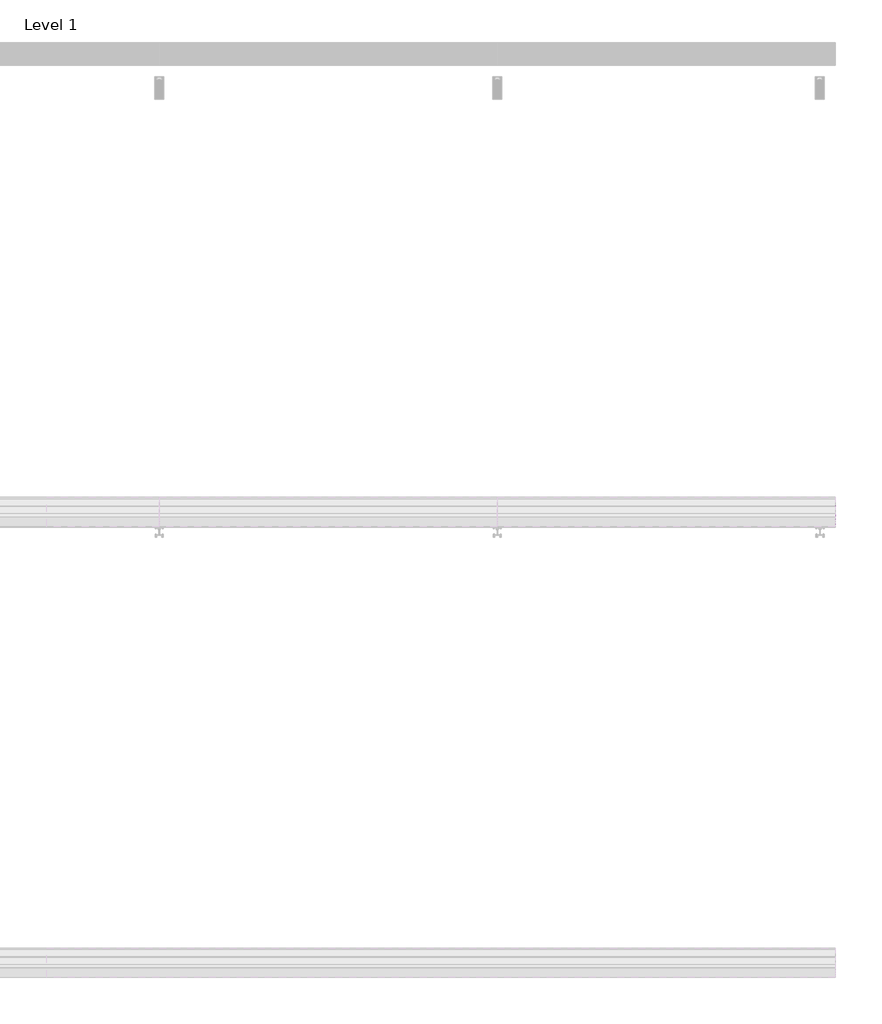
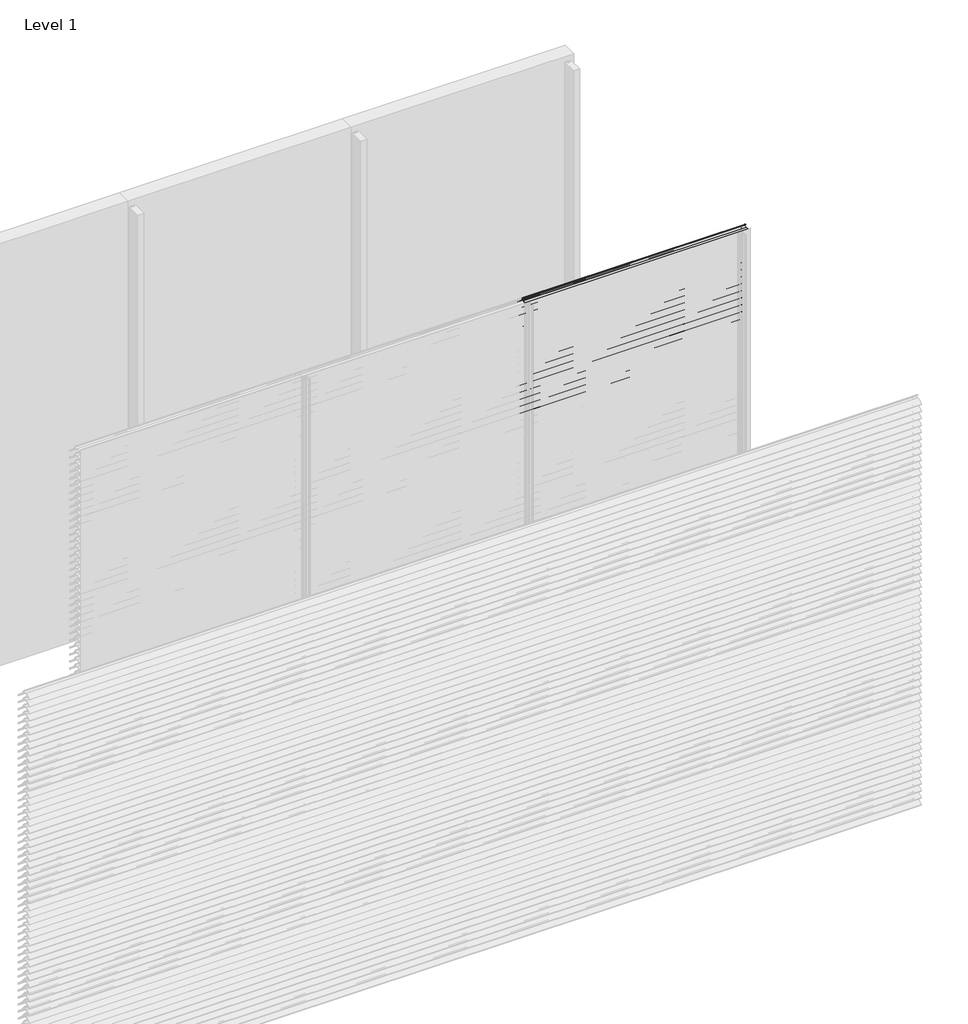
# One storey, part 51 of 173: 17 proxies.
"""IFC4 building model written with IfcOpenShell, lengths in millimetres."""

from ifc_helpers import new_model, si_unit, point, frame, frame_2d, origin, place, context, project, spatial, polyline, circle_curve, trimmed, segment, composite_curve, outline, extrude, element, save

model = new_model("IFC4")

# Units and contexts
model_context = context("Model", 3, world=origin())
ifc_project = project(units=[si_unit("LENGTHUNIT", "METRE", prefix="MILLI")], contexts=[model_context])

# Site, building, storey
site = spatial("IfcSite", under=ifc_project)
building = spatial("IfcBuilding", under=site)
storey = spatial("IfcBuildingStorey", under=building, Name="Level 1", Elevation=0.0)

# Proxies
placement = place(None, origin())
element("IfcBuildingElementProxy", 1, Name="Wall Sweeps", at=placement, inside=storey, context=model_context, shape_type="SweptSolid", body=[
    extrude(outline(composite_curve([segment(polyline([(-41998.0, 2959.1474905), (-41998.0, 2961.6227417)]), True, "CONTINUOUS"), segment(trimmed(circle_curve(frame_2d((-41951.2682172, 2916.2200208)), 65.1557103), [point((-41998.0, 2961.6227417))], [point((-41954.4014323, 2981.3003524))], False, "CARTESIAN"), True, "CONTINUOUS"), segment(polyline([(-41954.4014323, 2981.3003524), (-41934.8315836, 2981.3003524)]), True, "CONTINUOUS"), segment(trimmed(circle_curve(frame_2d((-41732.7329489, 3128.5533172)), 250.0545817), [point((-41934.8315836, 2981.3003524))], [point((-41941.4452143, 2990.8344583))], False, "CARTESIAN"), True, "CONTINUOUS"), segment(trimmed(circle_curve(frame_2d((-41953.2981792, 2985.1737835)), 13.1352966), [point((-41941.4452143, 2990.8344583))], [point((-41953.8171475, 2998.298824))], True, "CARTESIAN"), True, "CONTINUOUS"), segment(polyline([(-41953.8171475, 2998.298824), (-41953.8171475, 3000.0)]), True, "CONTINUOUS"), segment(trimmed(circle_curve(frame_2d((-41953.2981792, 2985.1737835)), 14.8352966), [point((-41953.8171475, 3000.0))], [point((-41939.9637661, 2991.6760487))], False, "CARTESIAN"), True, "CONTINUOUS"), segment(trimmed(circle_curve(frame_2d((-41732.7329489, 3128.5533172)), 248.3545817), [point((-41939.9637661, 2991.6760487))], [point((-41873.8787895, 2924.2059416))], True, "CARTESIAN"), True, "CONTINUOUS"), segment(trimmed(circle_curve(frame_2d((-41883.8147537, 2911.6649442)), 16.0), [point((-41873.8787895, 2924.2059416))], [point((-41867.8648347, 2910.4))], False, "CARTESIAN"), True, "CONTINUOUS"), segment(polyline([(-41867.8648347, 2910.4), (-41869.6712069, 2910.4)]), True, "CONTINUOUS"), segment(trimmed(circle_curve(frame_2d((-41883.8147537, 2911.6649442)), 14.2), [point((-41869.6712069, 2910.4))], [point((-41874.9518628, 2922.7594998))], True, "CARTESIAN"), True, "CONTINUOUS"), segment(trimmed(circle_curve(frame_2d((-41732.7329489, 3128.5533172)), 250.1545817), [point((-41874.9518628, 2922.7594998))], [point((-41933.7064024, 2979.6003524))], False, "CARTESIAN"), True, "CONTINUOUS"), segment(polyline([(-41933.7064024, 2979.6003524), (-41954.3602632, 2979.6003524)]), True, "CONTINUOUS"), segment(trimmed(circle_curve(frame_2d((-41951.2682172, 2916.2200208)), 63.4557103), [point((-41954.3602632, 2979.6003524))], [point((-41998.0, 2959.1474905))], True, "CARTESIAN"), True, "CONTINUOUS")], self_intersect=False)), frame((4500.0, 0.0, 0.0), z_axis=(1.0, 0.0, 0.0), x_axis=(0.0, 1.0, 0.0)), (0.0, 0.0, 1.0), 1500.0),
])
element("IfcBuildingElementProxy", 2, Name="Wall Sweeps", at=placement, inside=storey, context=model_context, shape_type="SweptSolid", body=[
    extrude(outline(composite_curve([segment(polyline([(-41998.0, 2909.1474905), (-41998.0, 2911.6227417)]), True, "CONTINUOUS"), segment(trimmed(circle_curve(frame_2d((-41951.2682172, 2866.2200208)), 65.1557103), [point((-41998.0, 2911.6227417))], [point((-41954.4014323, 2931.3003524))], False, "CARTESIAN"), True, "CONTINUOUS"), segment(polyline([(-41954.4014323, 2931.3003524), (-41934.8315836, 2931.3003524)]), True, "CONTINUOUS"), segment(trimmed(circle_curve(frame_2d((-41732.7329489, 3078.5533172)), 250.0545817), [point((-41934.8315836, 2931.3003524))], [point((-41941.4452143, 2940.8344583))], False, "CARTESIAN"), True, "CONTINUOUS"), segment(trimmed(circle_curve(frame_2d((-41953.2981792, 2935.1737835)), 13.1352966), [point((-41941.4452143, 2940.8344583))], [point((-41953.8171475, 2948.298824))], True, "CARTESIAN"), True, "CONTINUOUS"), segment(polyline([(-41953.8171475, 2948.298824), (-41953.8171475, 2950.0)]), True, "CONTINUOUS"), segment(trimmed(circle_curve(frame_2d((-41953.2981792, 2935.1737835)), 14.8352966), [point((-41953.8171475, 2950.0))], [point((-41939.9637661, 2941.6760487))], False, "CARTESIAN"), True, "CONTINUOUS"), segment(trimmed(circle_curve(frame_2d((-41732.7329489, 3078.5533172)), 248.3545817), [point((-41939.9637661, 2941.6760487))], [point((-41873.8787895, 2874.2059416))], True, "CARTESIAN"), True, "CONTINUOUS"), segment(trimmed(circle_curve(frame_2d((-41883.8147537, 2861.6649442)), 16.0), [point((-41873.8787895, 2874.2059416))], [point((-41867.8648347, 2860.4))], False, "CARTESIAN"), True, "CONTINUOUS"), segment(polyline([(-41867.8648347, 2860.4), (-41869.6712069, 2860.4)]), True, "CONTINUOUS"), segment(trimmed(circle_curve(frame_2d((-41883.8147537, 2861.6649442)), 14.2), [point((-41869.6712069, 2860.4))], [point((-41874.9518628, 2872.7594998))], True, "CARTESIAN"), True, "CONTINUOUS"), segment(trimmed(circle_curve(frame_2d((-41732.7329489, 3078.5533172)), 250.1545817), [point((-41874.9518628, 2872.7594998))], [point((-41933.7064024, 2929.6003524))], False, "CARTESIAN"), True, "CONTINUOUS"), segment(polyline([(-41933.7064024, 2929.6003524), (-41954.3602632, 2929.6003524)]), True, "CONTINUOUS"), segment(trimmed(circle_curve(frame_2d((-41951.2682172, 2866.2200208)), 63.4557103), [point((-41954.3602632, 2929.6003524))], [point((-41998.0, 2909.1474905))], True, "CARTESIAN"), True, "CONTINUOUS")], self_intersect=False)), frame((4500.0, 0.0, 0.0), z_axis=(1.0, 0.0, 0.0), x_axis=(0.0, 1.0, 0.0)), (0.0, 0.0, 1.0), 1500.0),
])
element("IfcBuildingElementProxy", 3, Name="Wall Sweeps", at=placement, inside=storey, context=model_context, shape_type="SweptSolid", body=[
    extrude(outline(composite_curve([segment(polyline([(-41998.0, 2859.1474905), (-41998.0, 2861.6227417)]), True, "CONTINUOUS"), segment(trimmed(circle_curve(frame_2d((-41951.2682172, 2816.2200208)), 65.1557103), [point((-41998.0, 2861.6227417))], [point((-41954.4014323, 2881.3003524))], False, "CARTESIAN"), True, "CONTINUOUS"), segment(polyline([(-41954.4014323, 2881.3003524), (-41934.8315836, 2881.3003524)]), True, "CONTINUOUS"), segment(trimmed(circle_curve(frame_2d((-41732.7329489, 3028.5533172)), 250.0545817), [point((-41934.8315836, 2881.3003524))], [point((-41941.4452143, 2890.8344583))], False, "CARTESIAN"), True, "CONTINUOUS"), segment(trimmed(circle_curve(frame_2d((-41953.2981792, 2885.1737835)), 13.1352966), [point((-41941.4452143, 2890.8344583))], [point((-41953.8171475, 2898.298824))], True, "CARTESIAN"), True, "CONTINUOUS"), segment(polyline([(-41953.8171475, 2898.298824), (-41953.8171475, 2900.0)]), True, "CONTINUOUS"), segment(trimmed(circle_curve(frame_2d((-41953.2981792, 2885.1737835)), 14.8352966), [point((-41953.8171475, 2900.0))], [point((-41939.9637661, 2891.6760487))], False, "CARTESIAN"), True, "CONTINUOUS"), segment(trimmed(circle_curve(frame_2d((-41732.7329489, 3028.5533172)), 248.3545817), [point((-41939.9637661, 2891.6760487))], [point((-41873.8787895, 2824.2059416))], True, "CARTESIAN"), True, "CONTINUOUS"), segment(trimmed(circle_curve(frame_2d((-41883.8147537, 2811.6649442)), 16.0), [point((-41873.8787895, 2824.2059416))], [point((-41867.8648347, 2810.4))], False, "CARTESIAN"), True, "CONTINUOUS"), segment(polyline([(-41867.8648347, 2810.4), (-41869.6712069, 2810.4)]), True, "CONTINUOUS"), segment(trimmed(circle_curve(frame_2d((-41883.8147537, 2811.6649442)), 14.2), [point((-41869.6712069, 2810.4))], [point((-41874.9518628, 2822.7594998))], True, "CARTESIAN"), True, "CONTINUOUS"), segment(trimmed(circle_curve(frame_2d((-41732.7329489, 3028.5533172)), 250.1545817), [point((-41874.9518628, 2822.7594998))], [point((-41933.7064024, 2879.6003524))], False, "CARTESIAN"), True, "CONTINUOUS"), segment(polyline([(-41933.7064024, 2879.6003524), (-41954.3602632, 2879.6003524)]), True, "CONTINUOUS"), segment(trimmed(circle_curve(frame_2d((-41951.2682172, 2816.2200208)), 63.4557103), [point((-41954.3602632, 2879.6003524))], [point((-41998.0, 2859.1474905))], True, "CARTESIAN"), True, "CONTINUOUS")], self_intersect=False)), frame((4500.0, 0.0, 0.0), z_axis=(1.0, 0.0, 0.0), x_axis=(0.0, 1.0, 0.0)), (0.0, 0.0, 1.0), 1500.0),
])
element("IfcBuildingElementProxy", 4, Name="Wall Sweeps", at=placement, inside=storey, context=model_context, shape_type="SweptSolid", body=[
    extrude(outline(composite_curve([segment(polyline([(-41998.0, 2809.1474905), (-41998.0, 2811.6227417)]), True, "CONTINUOUS"), segment(trimmed(circle_curve(frame_2d((-41951.2682172, 2766.2200208)), 65.1557103), [point((-41998.0, 2811.6227417))], [point((-41954.4014323, 2831.3003524))], False, "CARTESIAN"), True, "CONTINUOUS"), segment(polyline([(-41954.4014323, 2831.3003524), (-41934.8315836, 2831.3003524)]), True, "CONTINUOUS"), segment(trimmed(circle_curve(frame_2d((-41732.7329489, 2978.5533172)), 250.0545817), [point((-41934.8315836, 2831.3003524))], [point((-41941.4452143, 2840.8344583))], False, "CARTESIAN"), True, "CONTINUOUS"), segment(trimmed(circle_curve(frame_2d((-41953.2981792, 2835.1737835)), 13.1352966), [point((-41941.4452143, 2840.8344583))], [point((-41953.8171475, 2848.298824))], True, "CARTESIAN"), True, "CONTINUOUS"), segment(polyline([(-41953.8171475, 2848.298824), (-41953.8171475, 2850.0)]), True, "CONTINUOUS"), segment(trimmed(circle_curve(frame_2d((-41953.2981792, 2835.1737835)), 14.8352966), [point((-41953.8171475, 2850.0))], [point((-41939.9637661, 2841.6760487))], False, "CARTESIAN"), True, "CONTINUOUS"), segment(trimmed(circle_curve(frame_2d((-41732.7329489, 2978.5533172)), 248.3545817), [point((-41939.9637661, 2841.6760487))], [point((-41873.8787895, 2774.2059416))], True, "CARTESIAN"), True, "CONTINUOUS"), segment(trimmed(circle_curve(frame_2d((-41883.8147537, 2761.6649442)), 16.0), [point((-41873.8787895, 2774.2059416))], [point((-41867.8648347, 2760.4))], False, "CARTESIAN"), True, "CONTINUOUS"), segment(polyline([(-41867.8648347, 2760.4), (-41869.6712069, 2760.4)]), True, "CONTINUOUS"), segment(trimmed(circle_curve(frame_2d((-41883.8147537, 2761.6649442)), 14.2), [point((-41869.6712069, 2760.4))], [point((-41874.9518628, 2772.7594998))], True, "CARTESIAN"), True, "CONTINUOUS"), segment(trimmed(circle_curve(frame_2d((-41732.7329489, 2978.5533172)), 250.1545817), [point((-41874.9518628, 2772.7594998))], [point((-41933.7064024, 2829.6003524))], False, "CARTESIAN"), True, "CONTINUOUS"), segment(polyline([(-41933.7064024, 2829.6003524), (-41954.3602632, 2829.6003524)]), True, "CONTINUOUS"), segment(trimmed(circle_curve(frame_2d((-41951.2682172, 2766.2200208)), 63.4557103), [point((-41954.3602632, 2829.6003524))], [point((-41998.0, 2809.1474905))], True, "CARTESIAN"), True, "CONTINUOUS")], self_intersect=False)), frame((4500.0, 0.0, 0.0), z_axis=(1.0, 0.0, 0.0), x_axis=(0.0, 1.0, 0.0)), (0.0, 0.0, 1.0), 1500.0),
])
element("IfcBuildingElementProxy", 5, Name="Wall Sweeps", at=placement, inside=storey, context=model_context, shape_type="SweptSolid", body=[
    extrude(outline(composite_curve([segment(polyline([(-41998.0, 2759.1474905), (-41998.0, 2761.6227417)]), True, "CONTINUOUS"), segment(trimmed(circle_curve(frame_2d((-41951.2682172, 2716.2200208)), 65.1557103), [point((-41998.0, 2761.6227417))], [point((-41954.4014323, 2781.3003524))], False, "CARTESIAN"), True, "CONTINUOUS"), segment(polyline([(-41954.4014323, 2781.3003524), (-41934.8315836, 2781.3003524)]), True, "CONTINUOUS"), segment(trimmed(circle_curve(frame_2d((-41732.7329489, 2928.5533172)), 250.0545817), [point((-41934.8315836, 2781.3003524))], [point((-41941.4452143, 2790.8344583))], False, "CARTESIAN"), True, "CONTINUOUS"), segment(trimmed(circle_curve(frame_2d((-41953.2981792, 2785.1737835)), 13.1352966), [point((-41941.4452143, 2790.8344583))], [point((-41953.8171475, 2798.298824))], True, "CARTESIAN"), True, "CONTINUOUS"), segment(polyline([(-41953.8171475, 2798.298824), (-41953.8171475, 2800.0)]), True, "CONTINUOUS"), segment(trimmed(circle_curve(frame_2d((-41953.2981792, 2785.1737835)), 14.8352966), [point((-41953.8171475, 2800.0))], [point((-41939.9637661, 2791.6760487))], False, "CARTESIAN"), True, "CONTINUOUS"), segment(trimmed(circle_curve(frame_2d((-41732.7329489, 2928.5533172)), 248.3545817), [point((-41939.9637661, 2791.6760487))], [point((-41873.8787895, 2724.2059416))], True, "CARTESIAN"), True, "CONTINUOUS"), segment(trimmed(circle_curve(frame_2d((-41883.8147537, 2711.6649442)), 16.0), [point((-41873.8787895, 2724.2059416))], [point((-41867.8648347, 2710.4))], False, "CARTESIAN"), True, "CONTINUOUS"), segment(polyline([(-41867.8648347, 2710.4), (-41869.6712069, 2710.4)]), True, "CONTINUOUS"), segment(trimmed(circle_curve(frame_2d((-41883.8147537, 2711.6649442)), 14.2), [point((-41869.6712069, 2710.4))], [point((-41874.9518628, 2722.7594998))], True, "CARTESIAN"), True, "CONTINUOUS"), segment(trimmed(circle_curve(frame_2d((-41732.7329489, 2928.5533172)), 250.1545817), [point((-41874.9518628, 2722.7594998))], [point((-41933.7064024, 2779.6003524))], False, "CARTESIAN"), True, "CONTINUOUS"), segment(polyline([(-41933.7064024, 2779.6003524), (-41954.3602632, 2779.6003524)]), True, "CONTINUOUS"), segment(trimmed(circle_curve(frame_2d((-41951.2682172, 2716.2200208)), 63.4557103), [point((-41954.3602632, 2779.6003524))], [point((-41998.0, 2759.1474905))], True, "CARTESIAN"), True, "CONTINUOUS")], self_intersect=False)), frame((4500.0, 0.0, 0.0), z_axis=(1.0, 0.0, 0.0), x_axis=(0.0, 1.0, 0.0)), (0.0, 0.0, 1.0), 1500.0),
])
element("IfcBuildingElementProxy", 6, Name="Wall Sweeps", at=placement, inside=storey, context=model_context, shape_type="SweptSolid", body=[
    extrude(outline(composite_curve([segment(polyline([(-41998.0, 2709.1474905), (-41998.0, 2711.6227417)]), True, "CONTINUOUS"), segment(trimmed(circle_curve(frame_2d((-41951.2682172, 2666.2200208)), 65.1557103), [point((-41998.0, 2711.6227417))], [point((-41954.4014323, 2731.3003524))], False, "CARTESIAN"), True, "CONTINUOUS"), segment(polyline([(-41954.4014323, 2731.3003524), (-41934.8315836, 2731.3003524)]), True, "CONTINUOUS"), segment(trimmed(circle_curve(frame_2d((-41732.7329489, 2878.5533172)), 250.0545817), [point((-41934.8315836, 2731.3003524))], [point((-41941.4452143, 2740.8344583))], False, "CARTESIAN"), True, "CONTINUOUS"), segment(trimmed(circle_curve(frame_2d((-41953.2981792, 2735.1737835)), 13.1352966), [point((-41941.4452143, 2740.8344583))], [point((-41953.8171475, 2748.298824))], True, "CARTESIAN"), True, "CONTINUOUS"), segment(polyline([(-41953.8171475, 2748.298824), (-41953.8171475, 2750.0)]), True, "CONTINUOUS"), segment(trimmed(circle_curve(frame_2d((-41953.2981792, 2735.1737835)), 14.8352966), [point((-41953.8171475, 2750.0))], [point((-41939.9637661, 2741.6760487))], False, "CARTESIAN"), True, "CONTINUOUS"), segment(trimmed(circle_curve(frame_2d((-41732.7329489, 2878.5533172)), 248.3545817), [point((-41939.9637661, 2741.6760487))], [point((-41873.8787895, 2674.2059416))], True, "CARTESIAN"), True, "CONTINUOUS"), segment(trimmed(circle_curve(frame_2d((-41883.8147537, 2661.6649442)), 16.0), [point((-41873.8787895, 2674.2059416))], [point((-41867.8648347, 2660.4))], False, "CARTESIAN"), True, "CONTINUOUS"), segment(polyline([(-41867.8648347, 2660.4), (-41869.6712069, 2660.4)]), True, "CONTINUOUS"), segment(trimmed(circle_curve(frame_2d((-41883.8147537, 2661.6649442)), 14.2), [point((-41869.6712069, 2660.4))], [point((-41874.9518628, 2672.7594998))], True, "CARTESIAN"), True, "CONTINUOUS"), segment(trimmed(circle_curve(frame_2d((-41732.7329489, 2878.5533172)), 250.1545817), [point((-41874.9518628, 2672.7594998))], [point((-41933.7064024, 2729.6003524))], False, "CARTESIAN"), True, "CONTINUOUS"), segment(polyline([(-41933.7064024, 2729.6003524), (-41954.3602632, 2729.6003524)]), True, "CONTINUOUS"), segment(trimmed(circle_curve(frame_2d((-41951.2682172, 2666.2200208)), 63.4557103), [point((-41954.3602632, 2729.6003524))], [point((-41998.0, 2709.1474905))], True, "CARTESIAN"), True, "CONTINUOUS")], self_intersect=False)), frame((4500.0, 0.0, 0.0), z_axis=(1.0, 0.0, 0.0), x_axis=(0.0, 1.0, 0.0)), (0.0, 0.0, 1.0), 1500.0),
])
element("IfcBuildingElementProxy", 7, Name="Wall Sweeps", at=placement, inside=storey, context=model_context, shape_type="SweptSolid", body=[
    extrude(outline(composite_curve([segment(polyline([(-41998.0, 2659.1474905), (-41998.0, 2661.6227417)]), True, "CONTINUOUS"), segment(trimmed(circle_curve(frame_2d((-41951.2682172, 2616.2200208)), 65.1557103), [point((-41998.0, 2661.6227417))], [point((-41954.4014323, 2681.3003524))], False, "CARTESIAN"), True, "CONTINUOUS"), segment(polyline([(-41954.4014323, 2681.3003524), (-41934.8315836, 2681.3003524)]), True, "CONTINUOUS"), segment(trimmed(circle_curve(frame_2d((-41732.7329489, 2828.5533172)), 250.0545817), [point((-41934.8315836, 2681.3003524))], [point((-41941.4452143, 2690.8344583))], False, "CARTESIAN"), True, "CONTINUOUS"), segment(trimmed(circle_curve(frame_2d((-41953.2981792, 2685.1737835)), 13.1352966), [point((-41941.4452143, 2690.8344583))], [point((-41953.8171475, 2698.298824))], True, "CARTESIAN"), True, "CONTINUOUS"), segment(polyline([(-41953.8171475, 2698.298824), (-41953.8171475, 2700.0)]), True, "CONTINUOUS"), segment(trimmed(circle_curve(frame_2d((-41953.2981792, 2685.1737835)), 14.8352966), [point((-41953.8171475, 2700.0))], [point((-41939.9637661, 2691.6760487))], False, "CARTESIAN"), True, "CONTINUOUS"), segment(trimmed(circle_curve(frame_2d((-41732.7329489, 2828.5533172)), 248.3545817), [point((-41939.9637661, 2691.6760487))], [point((-41873.8787895, 2624.2059416))], True, "CARTESIAN"), True, "CONTINUOUS"), segment(trimmed(circle_curve(frame_2d((-41883.8147537, 2611.6649442)), 16.0), [point((-41873.8787895, 2624.2059416))], [point((-41867.8648347, 2610.4))], False, "CARTESIAN"), True, "CONTINUOUS"), segment(polyline([(-41867.8648347, 2610.4), (-41869.6712069, 2610.4)]), True, "CONTINUOUS"), segment(trimmed(circle_curve(frame_2d((-41883.8147537, 2611.6649442)), 14.2), [point((-41869.6712069, 2610.4))], [point((-41874.9518628, 2622.7594998))], True, "CARTESIAN"), True, "CONTINUOUS"), segment(trimmed(circle_curve(frame_2d((-41732.7329489, 2828.5533172)), 250.1545817), [point((-41874.9518628, 2622.7594998))], [point((-41933.7064024, 2679.6003524))], False, "CARTESIAN"), True, "CONTINUOUS"), segment(polyline([(-41933.7064024, 2679.6003524), (-41954.3602632, 2679.6003524)]), True, "CONTINUOUS"), segment(trimmed(circle_curve(frame_2d((-41951.2682172, 2616.2200208)), 63.4557103), [point((-41954.3602632, 2679.6003524))], [point((-41998.0, 2659.1474905))], True, "CARTESIAN"), True, "CONTINUOUS")], self_intersect=False)), frame((4500.0, 0.0, 0.0), z_axis=(1.0, 0.0, 0.0), x_axis=(0.0, 1.0, 0.0)), (0.0, 0.0, 1.0), 1500.0),
])
element("IfcBuildingElementProxy", 8, Name="Wall Sweeps", at=placement, inside=storey, context=model_context, shape_type="SweptSolid", body=[
    extrude(outline(composite_curve([segment(polyline([(-41998.0, 2609.1474905), (-41998.0, 2611.6227417)]), True, "CONTINUOUS"), segment(trimmed(circle_curve(frame_2d((-41951.2682172, 2566.2200208)), 65.1557103), [point((-41998.0, 2611.6227417))], [point((-41954.4014323, 2631.3003524))], False, "CARTESIAN"), True, "CONTINUOUS"), segment(polyline([(-41954.4014323, 2631.3003524), (-41934.8315836, 2631.3003524)]), True, "CONTINUOUS"), segment(trimmed(circle_curve(frame_2d((-41732.7329489, 2778.5533172)), 250.0545817), [point((-41934.8315836, 2631.3003524))], [point((-41941.4452143, 2640.8344583))], False, "CARTESIAN"), True, "CONTINUOUS"), segment(trimmed(circle_curve(frame_2d((-41953.2981792, 2635.1737835)), 13.1352966), [point((-41941.4452143, 2640.8344583))], [point((-41953.8171475, 2648.298824))], True, "CARTESIAN"), True, "CONTINUOUS"), segment(polyline([(-41953.8171475, 2648.298824), (-41953.8171475, 2650.0)]), True, "CONTINUOUS"), segment(trimmed(circle_curve(frame_2d((-41953.2981792, 2635.1737835)), 14.8352966), [point((-41953.8171475, 2650.0))], [point((-41939.9637661, 2641.6760487))], False, "CARTESIAN"), True, "CONTINUOUS"), segment(trimmed(circle_curve(frame_2d((-41732.7329489, 2778.5533172)), 248.3545817), [point((-41939.9637661, 2641.6760487))], [point((-41873.8787895, 2574.2059416))], True, "CARTESIAN"), True, "CONTINUOUS"), segment(trimmed(circle_curve(frame_2d((-41883.8147537, 2561.6649442)), 16.0), [point((-41873.8787895, 2574.2059416))], [point((-41867.8648347, 2560.4))], False, "CARTESIAN"), True, "CONTINUOUS"), segment(polyline([(-41867.8648347, 2560.4), (-41869.6712069, 2560.4)]), True, "CONTINUOUS"), segment(trimmed(circle_curve(frame_2d((-41883.8147537, 2561.6649442)), 14.2), [point((-41869.6712069, 2560.4))], [point((-41874.9518628, 2572.7594998))], True, "CARTESIAN"), True, "CONTINUOUS"), segment(trimmed(circle_curve(frame_2d((-41732.7329489, 2778.5533172)), 250.1545817), [point((-41874.9518628, 2572.7594998))], [point((-41933.7064024, 2629.6003524))], False, "CARTESIAN"), True, "CONTINUOUS"), segment(polyline([(-41933.7064024, 2629.6003524), (-41954.3602632, 2629.6003524)]), True, "CONTINUOUS"), segment(trimmed(circle_curve(frame_2d((-41951.2682172, 2566.2200208)), 63.4557103), [point((-41954.3602632, 2629.6003524))], [point((-41998.0, 2609.1474905))], True, "CARTESIAN"), True, "CONTINUOUS")], self_intersect=False)), frame((4500.0, 0.0, 0.0), z_axis=(1.0, 0.0, 0.0), x_axis=(0.0, 1.0, 0.0)), (0.0, 0.0, 1.0), 1500.0),
])
element("IfcBuildingElementProxy", 9, Name="Wall Sweeps", at=placement, inside=storey, context=model_context, shape_type="SweptSolid", body=[
    extrude(outline(composite_curve([segment(polyline([(-41998.0, 2559.1474905), (-41998.0, 2561.6227417)]), True, "CONTINUOUS"), segment(trimmed(circle_curve(frame_2d((-41951.2682172, 2516.2200208)), 65.1557103), [point((-41998.0, 2561.6227417))], [point((-41954.4014323, 2581.3003524))], False, "CARTESIAN"), True, "CONTINUOUS"), segment(polyline([(-41954.4014323, 2581.3003524), (-41934.8315836, 2581.3003524)]), True, "CONTINUOUS"), segment(trimmed(circle_curve(frame_2d((-41732.7329489, 2728.5533172)), 250.0545817), [point((-41934.8315836, 2581.3003524))], [point((-41941.4452143, 2590.8344583))], False, "CARTESIAN"), True, "CONTINUOUS"), segment(trimmed(circle_curve(frame_2d((-41953.2981792, 2585.1737835)), 13.1352966), [point((-41941.4452143, 2590.8344583))], [point((-41953.8171475, 2598.298824))], True, "CARTESIAN"), True, "CONTINUOUS"), segment(polyline([(-41953.8171475, 2598.298824), (-41953.8171475, 2600.0)]), True, "CONTINUOUS"), segment(trimmed(circle_curve(frame_2d((-41953.2981792, 2585.1737835)), 14.8352966), [point((-41953.8171475, 2600.0))], [point((-41939.9637661, 2591.6760487))], False, "CARTESIAN"), True, "CONTINUOUS"), segment(trimmed(circle_curve(frame_2d((-41732.7329489, 2728.5533172)), 248.3545817), [point((-41939.9637661, 2591.6760487))], [point((-41873.8787895, 2524.2059416))], True, "CARTESIAN"), True, "CONTINUOUS"), segment(trimmed(circle_curve(frame_2d((-41883.8147537, 2511.6649442)), 16.0), [point((-41873.8787895, 2524.2059416))], [point((-41867.8648347, 2510.4))], False, "CARTESIAN"), True, "CONTINUOUS"), segment(polyline([(-41867.8648347, 2510.4), (-41869.6712069, 2510.4)]), True, "CONTINUOUS"), segment(trimmed(circle_curve(frame_2d((-41883.8147537, 2511.6649442)), 14.2), [point((-41869.6712069, 2510.4))], [point((-41874.9518628, 2522.7594998))], True, "CARTESIAN"), True, "CONTINUOUS"), segment(trimmed(circle_curve(frame_2d((-41732.7329489, 2728.5533172)), 250.1545817), [point((-41874.9518628, 2522.7594998))], [point((-41933.7064024, 2579.6003524))], False, "CARTESIAN"), True, "CONTINUOUS"), segment(polyline([(-41933.7064024, 2579.6003524), (-41954.3602632, 2579.6003524)]), True, "CONTINUOUS"), segment(trimmed(circle_curve(frame_2d((-41951.2682172, 2516.2200208)), 63.4557103), [point((-41954.3602632, 2579.6003524))], [point((-41998.0, 2559.1474905))], True, "CARTESIAN"), True, "CONTINUOUS")], self_intersect=False)), frame((4500.0, 0.0, 0.0), z_axis=(1.0, 0.0, 0.0), x_axis=(0.0, 1.0, 0.0)), (0.0, 0.0, 1.0), 1500.0),
])
element("IfcBuildingElementProxy", 10, Name="Wall Sweeps", at=placement, inside=storey, context=model_context, shape_type="SweptSolid", body=[
    extrude(outline(composite_curve([segment(polyline([(-41998.0, 2509.1474905), (-41998.0, 2511.6227417)]), True, "CONTINUOUS"), segment(trimmed(circle_curve(frame_2d((-41951.2682172, 2466.2200208)), 65.1557103), [point((-41998.0, 2511.6227417))], [point((-41954.4014323, 2531.3003524))], False, "CARTESIAN"), True, "CONTINUOUS"), segment(polyline([(-41954.4014323, 2531.3003524), (-41934.8315836, 2531.3003524)]), True, "CONTINUOUS"), segment(trimmed(circle_curve(frame_2d((-41732.7329489, 2678.5533172)), 250.0545817), [point((-41934.8315836, 2531.3003524))], [point((-41941.4452143, 2540.8344583))], False, "CARTESIAN"), True, "CONTINUOUS"), segment(trimmed(circle_curve(frame_2d((-41953.2981792, 2535.1737835)), 13.1352966), [point((-41941.4452143, 2540.8344583))], [point((-41953.8171475, 2548.298824))], True, "CARTESIAN"), True, "CONTINUOUS"), segment(polyline([(-41953.8171475, 2548.298824), (-41953.8171475, 2550.0)]), True, "CONTINUOUS"), segment(trimmed(circle_curve(frame_2d((-41953.2981792, 2535.1737835)), 14.8352966), [point((-41953.8171475, 2550.0))], [point((-41939.9637661, 2541.6760487))], False, "CARTESIAN"), True, "CONTINUOUS"), segment(trimmed(circle_curve(frame_2d((-41732.7329489, 2678.5533172)), 248.3545817), [point((-41939.9637661, 2541.6760487))], [point((-41873.8787895, 2474.2059416))], True, "CARTESIAN"), True, "CONTINUOUS"), segment(trimmed(circle_curve(frame_2d((-41883.8147537, 2461.6649442)), 16.0), [point((-41873.8787895, 2474.2059416))], [point((-41867.8648347, 2460.4))], False, "CARTESIAN"), True, "CONTINUOUS"), segment(polyline([(-41867.8648347, 2460.4), (-41869.6712069, 2460.4)]), True, "CONTINUOUS"), segment(trimmed(circle_curve(frame_2d((-41883.8147537, 2461.6649442)), 14.2), [point((-41869.6712069, 2460.4))], [point((-41874.9518628, 2472.7594998))], True, "CARTESIAN"), True, "CONTINUOUS"), segment(trimmed(circle_curve(frame_2d((-41732.7329489, 2678.5533172)), 250.1545817), [point((-41874.9518628, 2472.7594998))], [point((-41933.7064024, 2529.6003524))], False, "CARTESIAN"), True, "CONTINUOUS"), segment(polyline([(-41933.7064024, 2529.6003524), (-41954.3602632, 2529.6003524)]), True, "CONTINUOUS"), segment(trimmed(circle_curve(frame_2d((-41951.2682172, 2466.2200208)), 63.4557103), [point((-41954.3602632, 2529.6003524))], [point((-41998.0, 2509.1474905))], True, "CARTESIAN"), True, "CONTINUOUS")], self_intersect=False)), frame((4500.0, 0.0, 0.0), z_axis=(1.0, 0.0, 0.0), x_axis=(0.0, 1.0, 0.0)), (0.0, 0.0, 1.0), 1500.0),
])
element("IfcBuildingElementProxy", 11, Name="Wall Sweeps", at=placement, inside=storey, context=model_context, shape_type="SweptSolid", body=[
    extrude(outline(composite_curve([segment(polyline([(-41998.0, 2459.1474905), (-41998.0, 2461.6227417)]), True, "CONTINUOUS"), segment(trimmed(circle_curve(frame_2d((-41951.2682172, 2416.2200208)), 65.1557103), [point((-41998.0, 2461.6227417))], [point((-41954.4014323, 2481.3003524))], False, "CARTESIAN"), True, "CONTINUOUS"), segment(polyline([(-41954.4014323, 2481.3003524), (-41934.8315836, 2481.3003524)]), True, "CONTINUOUS"), segment(trimmed(circle_curve(frame_2d((-41732.7329489, 2628.5533172)), 250.0545817), [point((-41934.8315836, 2481.3003524))], [point((-41941.4452143, 2490.8344583))], False, "CARTESIAN"), True, "CONTINUOUS"), segment(trimmed(circle_curve(frame_2d((-41953.2981792, 2485.1737835)), 13.1352966), [point((-41941.4452143, 2490.8344583))], [point((-41953.8171475, 2498.298824))], True, "CARTESIAN"), True, "CONTINUOUS"), segment(polyline([(-41953.8171475, 2498.298824), (-41953.8171475, 2500.0)]), True, "CONTINUOUS"), segment(trimmed(circle_curve(frame_2d((-41953.2981792, 2485.1737835)), 14.8352966), [point((-41953.8171475, 2500.0))], [point((-41939.9637661, 2491.6760487))], False, "CARTESIAN"), True, "CONTINUOUS"), segment(trimmed(circle_curve(frame_2d((-41732.7329489, 2628.5533172)), 248.3545817), [point((-41939.9637661, 2491.6760487))], [point((-41873.8787895, 2424.2059416))], True, "CARTESIAN"), True, "CONTINUOUS"), segment(trimmed(circle_curve(frame_2d((-41883.8147537, 2411.6649442)), 16.0), [point((-41873.8787895, 2424.2059416))], [point((-41867.8648347, 2410.4))], False, "CARTESIAN"), True, "CONTINUOUS"), segment(polyline([(-41867.8648347, 2410.4), (-41869.6712069, 2410.4)]), True, "CONTINUOUS"), segment(trimmed(circle_curve(frame_2d((-41883.8147537, 2411.6649442)), 14.2), [point((-41869.6712069, 2410.4))], [point((-41874.9518628, 2422.7594998))], True, "CARTESIAN"), True, "CONTINUOUS"), segment(trimmed(circle_curve(frame_2d((-41732.7329489, 2628.5533172)), 250.1545817), [point((-41874.9518628, 2422.7594998))], [point((-41933.7064024, 2479.6003524))], False, "CARTESIAN"), True, "CONTINUOUS"), segment(polyline([(-41933.7064024, 2479.6003524), (-41954.3602632, 2479.6003524)]), True, "CONTINUOUS"), segment(trimmed(circle_curve(frame_2d((-41951.2682172, 2416.2200208)), 63.4557103), [point((-41954.3602632, 2479.6003524))], [point((-41998.0, 2459.1474905))], True, "CARTESIAN"), True, "CONTINUOUS")], self_intersect=False)), frame((4500.0, 0.0, 0.0), z_axis=(1.0, 0.0, 0.0), x_axis=(0.0, 1.0, 0.0)), (0.0, 0.0, 1.0), 1500.0),
])
element("IfcBuildingElementProxy", 12, Name="Wall Sweeps", at=placement, inside=storey, context=model_context, shape_type="SweptSolid", body=[
    extrude(outline(composite_curve([segment(polyline([(-41998.0, 2409.1474905), (-41998.0, 2411.6227417)]), True, "CONTINUOUS"), segment(trimmed(circle_curve(frame_2d((-41951.2682172, 2366.2200208)), 65.1557103), [point((-41998.0, 2411.6227417))], [point((-41954.4014323, 2431.3003524))], False, "CARTESIAN"), True, "CONTINUOUS"), segment(polyline([(-41954.4014323, 2431.3003524), (-41934.8315836, 2431.3003524)]), True, "CONTINUOUS"), segment(trimmed(circle_curve(frame_2d((-41732.7329489, 2578.5533172)), 250.0545817), [point((-41934.8315836, 2431.3003524))], [point((-41941.4452143, 2440.8344583))], False, "CARTESIAN"), True, "CONTINUOUS"), segment(trimmed(circle_curve(frame_2d((-41953.2981792, 2435.1737835)), 13.1352966), [point((-41941.4452143, 2440.8344583))], [point((-41953.8171475, 2448.298824))], True, "CARTESIAN"), True, "CONTINUOUS"), segment(polyline([(-41953.8171475, 2448.298824), (-41953.8171475, 2450.0)]), True, "CONTINUOUS"), segment(trimmed(circle_curve(frame_2d((-41953.2981792, 2435.1737835)), 14.8352966), [point((-41953.8171475, 2450.0))], [point((-41939.9637661, 2441.6760487))], False, "CARTESIAN"), True, "CONTINUOUS"), segment(trimmed(circle_curve(frame_2d((-41732.7329489, 2578.5533172)), 248.3545817), [point((-41939.9637661, 2441.6760487))], [point((-41873.8787895, 2374.2059416))], True, "CARTESIAN"), True, "CONTINUOUS"), segment(trimmed(circle_curve(frame_2d((-41883.8147537, 2361.6649442)), 16.0), [point((-41873.8787895, 2374.2059416))], [point((-41867.8648347, 2360.4))], False, "CARTESIAN"), True, "CONTINUOUS"), segment(polyline([(-41867.8648347, 2360.4), (-41869.6712069, 2360.4)]), True, "CONTINUOUS"), segment(trimmed(circle_curve(frame_2d((-41883.8147537, 2361.6649442)), 14.2), [point((-41869.6712069, 2360.4))], [point((-41874.9518628, 2372.7594998))], True, "CARTESIAN"), True, "CONTINUOUS"), segment(trimmed(circle_curve(frame_2d((-41732.7329489, 2578.5533172)), 250.1545817), [point((-41874.9518628, 2372.7594998))], [point((-41933.7064024, 2429.6003524))], False, "CARTESIAN"), True, "CONTINUOUS"), segment(polyline([(-41933.7064024, 2429.6003524), (-41954.3602632, 2429.6003524)]), True, "CONTINUOUS"), segment(trimmed(circle_curve(frame_2d((-41951.2682172, 2366.2200208)), 63.4557103), [point((-41954.3602632, 2429.6003524))], [point((-41998.0, 2409.1474905))], True, "CARTESIAN"), True, "CONTINUOUS")], self_intersect=False)), frame((4500.0, 0.0, 0.0), z_axis=(1.0, 0.0, 0.0), x_axis=(0.0, 1.0, 0.0)), (0.0, 0.0, 1.0), 1500.0),
])
element("IfcBuildingElementProxy", 13, Name="Wall Sweeps", at=placement, inside=storey, context=model_context, shape_type="SweptSolid", body=[
    extrude(outline(composite_curve([segment(polyline([(-41998.0, 2359.1474905), (-41998.0, 2361.6227417)]), True, "CONTINUOUS"), segment(trimmed(circle_curve(frame_2d((-41951.2682172, 2316.2200208)), 65.1557103), [point((-41998.0, 2361.6227417))], [point((-41954.4014323, 2381.3003524))], False, "CARTESIAN"), True, "CONTINUOUS"), segment(polyline([(-41954.4014323, 2381.3003524), (-41934.8315836, 2381.3003524)]), True, "CONTINUOUS"), segment(trimmed(circle_curve(frame_2d((-41732.7329489, 2528.5533172)), 250.0545817), [point((-41934.8315836, 2381.3003524))], [point((-41941.4452143, 2390.8344583))], False, "CARTESIAN"), True, "CONTINUOUS"), segment(trimmed(circle_curve(frame_2d((-41953.2981792, 2385.1737835)), 13.1352966), [point((-41941.4452143, 2390.8344583))], [point((-41953.8171475, 2398.298824))], True, "CARTESIAN"), True, "CONTINUOUS"), segment(polyline([(-41953.8171475, 2398.298824), (-41953.8171475, 2400.0)]), True, "CONTINUOUS"), segment(trimmed(circle_curve(frame_2d((-41953.2981792, 2385.1737835)), 14.8352966), [point((-41953.8171475, 2400.0))], [point((-41939.9637661, 2391.6760487))], False, "CARTESIAN"), True, "CONTINUOUS"), segment(trimmed(circle_curve(frame_2d((-41732.7329489, 2528.5533172)), 248.3545817), [point((-41939.9637661, 2391.6760487))], [point((-41873.8787895, 2324.2059416))], True, "CARTESIAN"), True, "CONTINUOUS"), segment(trimmed(circle_curve(frame_2d((-41883.8147537, 2311.6649442)), 16.0), [point((-41873.8787895, 2324.2059416))], [point((-41867.8648347, 2310.4))], False, "CARTESIAN"), True, "CONTINUOUS"), segment(polyline([(-41867.8648347, 2310.4), (-41869.6712069, 2310.4)]), True, "CONTINUOUS"), segment(trimmed(circle_curve(frame_2d((-41883.8147537, 2311.6649442)), 14.2), [point((-41869.6712069, 2310.4))], [point((-41874.9518628, 2322.7594998))], True, "CARTESIAN"), True, "CONTINUOUS"), segment(trimmed(circle_curve(frame_2d((-41732.7329489, 2528.5533172)), 250.1545817), [point((-41874.9518628, 2322.7594998))], [point((-41933.7064024, 2379.6003524))], False, "CARTESIAN"), True, "CONTINUOUS"), segment(polyline([(-41933.7064024, 2379.6003524), (-41954.3602632, 2379.6003524)]), True, "CONTINUOUS"), segment(trimmed(circle_curve(frame_2d((-41951.2682172, 2316.2200208)), 63.4557103), [point((-41954.3602632, 2379.6003524))], [point((-41998.0, 2359.1474905))], True, "CARTESIAN"), True, "CONTINUOUS")], self_intersect=False)), frame((4500.0, 0.0, 0.0), z_axis=(1.0, 0.0, 0.0), x_axis=(0.0, 1.0, 0.0)), (0.0, 0.0, 1.0), 1500.0),
])
element("IfcBuildingElementProxy", 14, Name="Wall Sweeps", at=placement, inside=storey, context=model_context, shape_type="SweptSolid", body=[
    extrude(outline(composite_curve([segment(polyline([(-41998.0, 2309.1474905), (-41998.0, 2311.6227417)]), True, "CONTINUOUS"), segment(trimmed(circle_curve(frame_2d((-41951.2682172, 2266.2200208)), 65.1557103), [point((-41998.0, 2311.6227417))], [point((-41954.4014323, 2331.3003524))], False, "CARTESIAN"), True, "CONTINUOUS"), segment(polyline([(-41954.4014323, 2331.3003524), (-41934.8315836, 2331.3003524)]), True, "CONTINUOUS"), segment(trimmed(circle_curve(frame_2d((-41732.7329489, 2478.5533172)), 250.0545817), [point((-41934.8315836, 2331.3003524))], [point((-41941.4452143, 2340.8344583))], False, "CARTESIAN"), True, "CONTINUOUS"), segment(trimmed(circle_curve(frame_2d((-41953.2981792, 2335.1737835)), 13.1352966), [point((-41941.4452143, 2340.8344583))], [point((-41953.8171475, 2348.298824))], True, "CARTESIAN"), True, "CONTINUOUS"), segment(polyline([(-41953.8171475, 2348.298824), (-41953.8171475, 2350.0)]), True, "CONTINUOUS"), segment(trimmed(circle_curve(frame_2d((-41953.2981792, 2335.1737835)), 14.8352966), [point((-41953.8171475, 2350.0))], [point((-41939.9637661, 2341.6760487))], False, "CARTESIAN"), True, "CONTINUOUS"), segment(trimmed(circle_curve(frame_2d((-41732.7329489, 2478.5533172)), 248.3545817), [point((-41939.9637661, 2341.6760487))], [point((-41873.8787895, 2274.2059416))], True, "CARTESIAN"), True, "CONTINUOUS"), segment(trimmed(circle_curve(frame_2d((-41883.8147537, 2261.6649442)), 16.0), [point((-41873.8787895, 2274.2059416))], [point((-41867.8648347, 2260.4))], False, "CARTESIAN"), True, "CONTINUOUS"), segment(polyline([(-41867.8648347, 2260.4), (-41869.6712069, 2260.4)]), True, "CONTINUOUS"), segment(trimmed(circle_curve(frame_2d((-41883.8147537, 2261.6649442)), 14.2), [point((-41869.6712069, 2260.4))], [point((-41874.9518628, 2272.7594998))], True, "CARTESIAN"), True, "CONTINUOUS"), segment(trimmed(circle_curve(frame_2d((-41732.7329489, 2478.5533172)), 250.1545817), [point((-41874.9518628, 2272.7594998))], [point((-41933.7064024, 2329.6003524))], False, "CARTESIAN"), True, "CONTINUOUS"), segment(polyline([(-41933.7064024, 2329.6003524), (-41954.3602632, 2329.6003524)]), True, "CONTINUOUS"), segment(trimmed(circle_curve(frame_2d((-41951.2682172, 2266.2200208)), 63.4557103), [point((-41954.3602632, 2329.6003524))], [point((-41998.0, 2309.1474905))], True, "CARTESIAN"), True, "CONTINUOUS")], self_intersect=False)), frame((4500.0, 0.0, 0.0), z_axis=(1.0, 0.0, 0.0), x_axis=(0.0, 1.0, 0.0)), (0.0, 0.0, 1.0), 1500.0),
])
element("IfcBuildingElementProxy", 15, Name="Wall Sweeps", at=placement, inside=storey, context=model_context, shape_type="SweptSolid", body=[
    extrude(outline(composite_curve([segment(polyline([(-41998.0, 2259.1474905), (-41998.0, 2261.6227417)]), True, "CONTINUOUS"), segment(trimmed(circle_curve(frame_2d((-41951.2682172, 2216.2200208)), 65.1557103), [point((-41998.0, 2261.6227417))], [point((-41954.4014323, 2281.3003524))], False, "CARTESIAN"), True, "CONTINUOUS"), segment(polyline([(-41954.4014323, 2281.3003524), (-41934.8315836, 2281.3003524)]), True, "CONTINUOUS"), segment(trimmed(circle_curve(frame_2d((-41732.7329489, 2428.5533172)), 250.0545817), [point((-41934.8315836, 2281.3003524))], [point((-41941.4452143, 2290.8344583))], False, "CARTESIAN"), True, "CONTINUOUS"), segment(trimmed(circle_curve(frame_2d((-41953.2981792, 2285.1737835)), 13.1352966), [point((-41941.4452143, 2290.8344583))], [point((-41953.8171475, 2298.298824))], True, "CARTESIAN"), True, "CONTINUOUS"), segment(polyline([(-41953.8171475, 2298.298824), (-41953.8171475, 2300.0)]), True, "CONTINUOUS"), segment(trimmed(circle_curve(frame_2d((-41953.2981792, 2285.1737835)), 14.8352966), [point((-41953.8171475, 2300.0))], [point((-41939.9637661, 2291.6760487))], False, "CARTESIAN"), True, "CONTINUOUS"), segment(trimmed(circle_curve(frame_2d((-41732.7329489, 2428.5533172)), 248.3545817), [point((-41939.9637661, 2291.6760487))], [point((-41873.8787895, 2224.2059416))], True, "CARTESIAN"), True, "CONTINUOUS"), segment(trimmed(circle_curve(frame_2d((-41883.8147537, 2211.6649442)), 16.0), [point((-41873.8787895, 2224.2059416))], [point((-41867.8648347, 2210.4))], False, "CARTESIAN"), True, "CONTINUOUS"), segment(polyline([(-41867.8648347, 2210.4), (-41869.6712069, 2210.4)]), True, "CONTINUOUS"), segment(trimmed(circle_curve(frame_2d((-41883.8147537, 2211.6649442)), 14.2), [point((-41869.6712069, 2210.4))], [point((-41874.9518628, 2222.7594998))], True, "CARTESIAN"), True, "CONTINUOUS"), segment(trimmed(circle_curve(frame_2d((-41732.7329489, 2428.5533172)), 250.1545817), [point((-41874.9518628, 2222.7594998))], [point((-41933.7064024, 2279.6003524))], False, "CARTESIAN"), True, "CONTINUOUS"), segment(polyline([(-41933.7064024, 2279.6003524), (-41954.3602632, 2279.6003524)]), True, "CONTINUOUS"), segment(trimmed(circle_curve(frame_2d((-41951.2682172, 2216.2200208)), 63.4557103), [point((-41954.3602632, 2279.6003524))], [point((-41998.0, 2259.1474905))], True, "CARTESIAN"), True, "CONTINUOUS")], self_intersect=False)), frame((4500.0, 0.0, 0.0), z_axis=(1.0, 0.0, 0.0), x_axis=(0.0, 1.0, 0.0)), (0.0, 0.0, 1.0), 1500.0),
])
element("IfcBuildingElementProxy", 16, Name="Wall Sweeps", at=placement, inside=storey, context=model_context, shape_type="SweptSolid", body=[
    extrude(outline(composite_curve([segment(polyline([(-41998.0, 2209.1474905), (-41998.0, 2211.6227417)]), True, "CONTINUOUS"), segment(trimmed(circle_curve(frame_2d((-41951.2682172, 2166.2200208)), 65.1557103), [point((-41998.0, 2211.6227417))], [point((-41954.4014323, 2231.3003524))], False, "CARTESIAN"), True, "CONTINUOUS"), segment(polyline([(-41954.4014323, 2231.3003524), (-41934.8315836, 2231.3003524)]), True, "CONTINUOUS"), segment(trimmed(circle_curve(frame_2d((-41732.7329489, 2378.5533172)), 250.0545817), [point((-41934.8315836, 2231.3003524))], [point((-41941.4452143, 2240.8344583))], False, "CARTESIAN"), True, "CONTINUOUS"), segment(trimmed(circle_curve(frame_2d((-41953.2981792, 2235.1737835)), 13.1352966), [point((-41941.4452143, 2240.8344583))], [point((-41953.8171475, 2248.298824))], True, "CARTESIAN"), True, "CONTINUOUS"), segment(polyline([(-41953.8171475, 2248.298824), (-41953.8171475, 2250.0)]), True, "CONTINUOUS"), segment(trimmed(circle_curve(frame_2d((-41953.2981792, 2235.1737835)), 14.8352966), [point((-41953.8171475, 2250.0))], [point((-41939.9637661, 2241.6760487))], False, "CARTESIAN"), True, "CONTINUOUS"), segment(trimmed(circle_curve(frame_2d((-41732.7329489, 2378.5533172)), 248.3545817), [point((-41939.9637661, 2241.6760487))], [point((-41873.8787895, 2174.2059416))], True, "CARTESIAN"), True, "CONTINUOUS"), segment(trimmed(circle_curve(frame_2d((-41883.8147537, 2161.6649442)), 16.0), [point((-41873.8787895, 2174.2059416))], [point((-41867.8648347, 2160.4))], False, "CARTESIAN"), True, "CONTINUOUS"), segment(polyline([(-41867.8648347, 2160.4), (-41869.6712069, 2160.4)]), True, "CONTINUOUS"), segment(trimmed(circle_curve(frame_2d((-41883.8147537, 2161.6649442)), 14.2), [point((-41869.6712069, 2160.4))], [point((-41874.9518628, 2172.7594998))], True, "CARTESIAN"), True, "CONTINUOUS"), segment(trimmed(circle_curve(frame_2d((-41732.7329489, 2378.5533172)), 250.1545817), [point((-41874.9518628, 2172.7594998))], [point((-41933.7064024, 2229.6003524))], False, "CARTESIAN"), True, "CONTINUOUS"), segment(polyline([(-41933.7064024, 2229.6003524), (-41954.3602632, 2229.6003524)]), True, "CONTINUOUS"), segment(trimmed(circle_curve(frame_2d((-41951.2682172, 2166.2200208)), 63.4557103), [point((-41954.3602632, 2229.6003524))], [point((-41998.0, 2209.1474905))], True, "CARTESIAN"), True, "CONTINUOUS")], self_intersect=False)), frame((4500.0, 0.0, 0.0), z_axis=(1.0, 0.0, 0.0), x_axis=(0.0, 1.0, 0.0)), (0.0, 0.0, 1.0), 1500.0),
])
element("IfcBuildingElementProxy", 17, Name="Wall Sweeps", at=placement, inside=storey, context=model_context, shape_type="SweptSolid", body=[
    extrude(outline(composite_curve([segment(polyline([(-41998.0, 2159.1474905), (-41998.0, 2161.6227417)]), True, "CONTINUOUS"), segment(trimmed(circle_curve(frame_2d((-41951.2682172, 2116.2200208)), 65.1557103), [point((-41998.0, 2161.6227417))], [point((-41954.4014323, 2181.3003524))], False, "CARTESIAN"), True, "CONTINUOUS"), segment(polyline([(-41954.4014323, 2181.3003524), (-41934.8315836, 2181.3003524)]), True, "CONTINUOUS"), segment(trimmed(circle_curve(frame_2d((-41732.7329489, 2328.5533172)), 250.0545817), [point((-41934.8315836, 2181.3003524))], [point((-41941.4452143, 2190.8344583))], False, "CARTESIAN"), True, "CONTINUOUS"), segment(trimmed(circle_curve(frame_2d((-41953.2981792, 2185.1737835)), 13.1352966), [point((-41941.4452143, 2190.8344583))], [point((-41953.8171475, 2198.298824))], True, "CARTESIAN"), True, "CONTINUOUS"), segment(polyline([(-41953.8171475, 2198.298824), (-41953.8171475, 2200.0)]), True, "CONTINUOUS"), segment(trimmed(circle_curve(frame_2d((-41953.2981792, 2185.1737835)), 14.8352966), [point((-41953.8171475, 2200.0))], [point((-41939.9637661, 2191.6760487))], False, "CARTESIAN"), True, "CONTINUOUS"), segment(trimmed(circle_curve(frame_2d((-41732.7329489, 2328.5533172)), 248.3545817), [point((-41939.9637661, 2191.6760487))], [point((-41873.8787895, 2124.2059416))], True, "CARTESIAN"), True, "CONTINUOUS"), segment(trimmed(circle_curve(frame_2d((-41883.8147537, 2111.6649442)), 16.0), [point((-41873.8787895, 2124.2059416))], [point((-41867.8648347, 2110.4))], False, "CARTESIAN"), True, "CONTINUOUS"), segment(polyline([(-41867.8648347, 2110.4), (-41869.6712069, 2110.4)]), True, "CONTINUOUS"), segment(trimmed(circle_curve(frame_2d((-41883.8147537, 2111.6649442)), 14.2), [point((-41869.6712069, 2110.4))], [point((-41874.9518628, 2122.7594998))], True, "CARTESIAN"), True, "CONTINUOUS"), segment(trimmed(circle_curve(frame_2d((-41732.7329489, 2328.5533172)), 250.1545817), [point((-41874.9518628, 2122.7594998))], [point((-41933.7064024, 2179.6003524))], False, "CARTESIAN"), True, "CONTINUOUS"), segment(polyline([(-41933.7064024, 2179.6003524), (-41954.3602632, 2179.6003524)]), True, "CONTINUOUS"), segment(trimmed(circle_curve(frame_2d((-41951.2682172, 2116.2200208)), 63.4557103), [point((-41954.3602632, 2179.6003524))], [point((-41998.0, 2159.1474905))], True, "CARTESIAN"), True, "CONTINUOUS")], self_intersect=False)), frame((4500.0, 0.0, 0.0), z_axis=(1.0, 0.0, 0.0), x_axis=(0.0, 1.0, 0.0)), (0.0, 0.0, 1.0), 1500.0),
])

save(model, "model.ifc")
